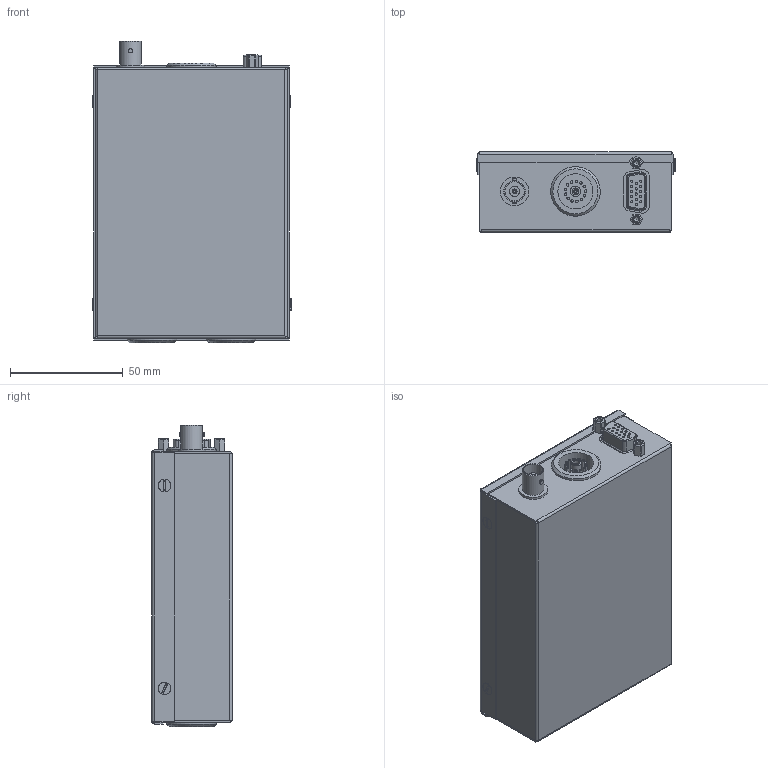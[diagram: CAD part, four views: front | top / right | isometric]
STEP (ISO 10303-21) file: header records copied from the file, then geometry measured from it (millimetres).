
FILE_DESCRIPTION (( 'STEP AP203' ), '1' );
FILE_NAME ('PAMUX2-04.STEP', '2021-08-11T16:27:49', ( '' ), ( '' ), 'SwSTEP 2.0', 'SolidWorks 2016', '' );
FILE_SCHEMA (( 'CONFIG_CONTROL_DESIGN' ));
Length unit declared in the file: millimetre
Products named in the file (8): PAMUX2-CAPOT-05; Ecrou CON; PAMUX2-CASE-05; User Library-BNC Connecor_BNC Connector; egg_3b_813_clm1_03; Embase Tole SUB-D 15F; emile_maurin_622083X10; PAMUX2-04
Assembly tree (13 placements, depth 2):
  PAMUX2-04
    PAMUX2-CASE-05
    egg_3b_813_clm1_03  x3
    Embase Tole SUB-D 15F
    User Library-BNC Connecor_BNC Connector
    PAMUX2-CAPOT-05
    emile_maurin_622083X10  x4
    Ecrou CON  x2
Bounding box: 88.1 x 35.65 x 133.73 mm (x, y, z)
Volume: 45437.4 mm3; surface area: 88579.5 mm2
Topology: 14 solids, 14 shells, 708 faces, 1476 edges, 958 vertices
Faces by surface type: plane 343, cylinder 285, torus 31, cone 30, bspline 19
Full cylindrical faces by diameter (mm): 0.867 x6, 1.016 x31, 1.1 x78, 1.346 x1, 1.55 x6, 1.587 x1, 1.905 x2, 2.032 x1, 2.159 x2, 2.2 x2, 2.231 x3, 2.5 x4, 3 x2, 3.032 x3, 3.048 x2, 3.1 x2, 3.2 x4, 4.445 x1, 4.599 x3, 4.775 x2, 8.509 x1, 9.525 x1, 10.9 x3, 12.7 x1, 15.593 x3, 16 x3, 22 x3
Entity records: 13237 total; most frequent: CARTESIAN_POINT 2799, DIRECTION 2052, ORIENTED_EDGE 1658, AXIS2_PLACEMENT_3D 831, EDGE_CURVE 829, EDGE_LOOP 685, VERTEX_POINT 582, FACE_OUTER_BOUND 560
